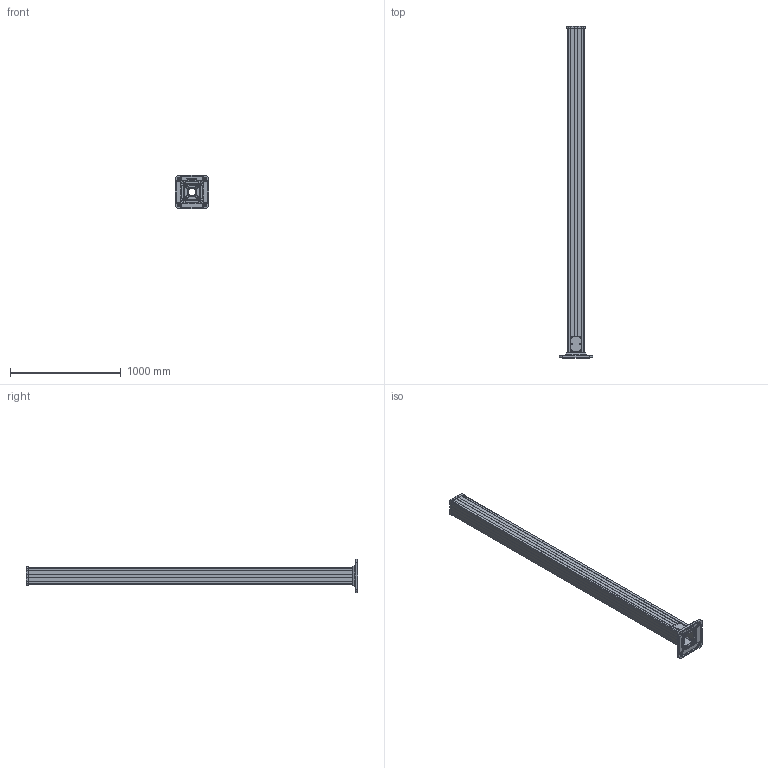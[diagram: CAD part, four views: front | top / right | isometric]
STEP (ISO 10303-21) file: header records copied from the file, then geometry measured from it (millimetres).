
FILE_DESCRIPTION (( 'STEP AP203' ), '1' );
FILE_NAME ('TK150.300.STEP', '2024-10-18T08:05:42', ( '' ), ( '' ), 'SwSTEP 2.0', 'SolidWorks 2022', '' );
FILE_SCHEMA (( 'CONFIG_CONTROL_DESIGN' ));
Length unit declared in the file: millimetre
Products named in the file (1): TK150.300
Bounding box: 300 x 3000 x 300 mm (x, y, z)
Volume: 17158693.5 mm3; surface area: 3899367.6 mm2
Topology: 8 solids, 284 shells, 2664 faces, 6824 edges, 4195 vertices
Faces by surface type: cone 910, cylinder 727, plane 591, bspline 364, torus 50, sphere 22
Full cylindrical faces by diameter (mm): 5 x54, 5.5 x6, 8.5 x272, 9.5 x6, 10 x32, 11 x8, 13.5 x4, 16 x8, 19 x4, 22.5 x4, 70 x1, 85 x2
Entity records: 77431 total; most frequent: CARTESIAN_POINT 25645, DIRECTION 10574, ORIENTED_EDGE 9176, EDGE_CURVE 4588, AXIS2_PLACEMENT_3D 4485, EDGE_LOOP 4076, VERTEX_POINT 3312, FACE_OUTER_BOUND 3093
